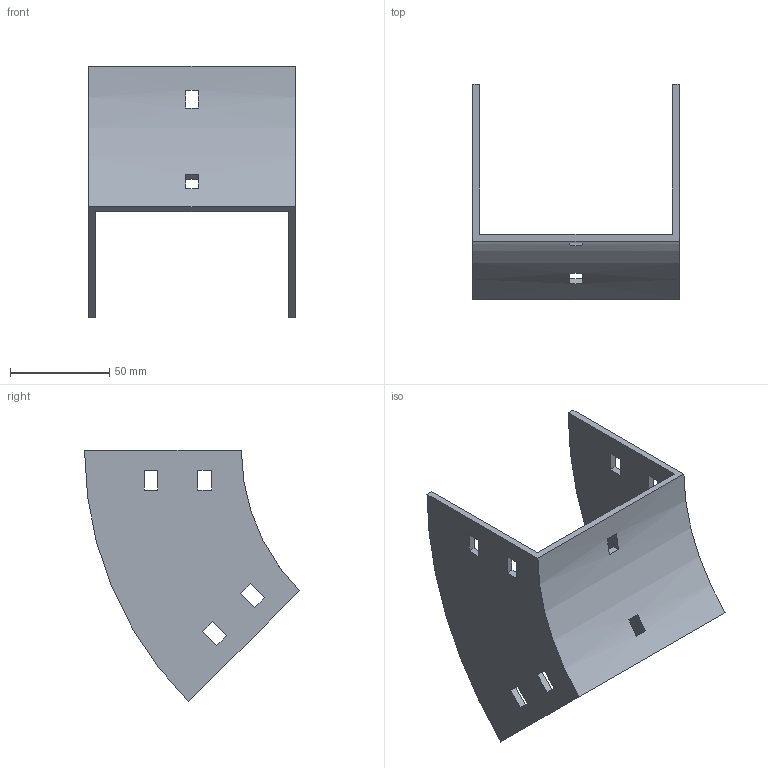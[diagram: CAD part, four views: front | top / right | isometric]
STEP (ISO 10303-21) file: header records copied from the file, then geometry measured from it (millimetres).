
FILE_DESCRIPTION (( 'STEP AP214' ), '1' );
FILE_NAME ('34B1C100.step', '2025-02-21T09:29:17', ( '' ), ( '' ), 'SwSTEP 2.0', 'SolidWorks 2023', '' );
FILE_SCHEMA (( 'AUTOMOTIVE_DESIGN' ));
Length unit declared in the file: millimetre
Products named in the file (1): 34B1C100
Bounding box: 104 x 108.29 x 126.57 mm (x, y, z)
Volume: 85344.1 mm3; surface area: 52699.6 mm2
Topology: 1 solids, 1 shells, 50 faces, 144 edges, 96 vertices
Faces by surface type: plane 46, cylinder 4
Entity records: 1687 total; most frequent: CARTESIAN_POINT 291, ORIENTED_EDGE 288, DIRECTION 262, EDGE_CURVE 144, VECTOR 128, LINE 128, VERTEX_POINT 96, EDGE_LOOP 70
